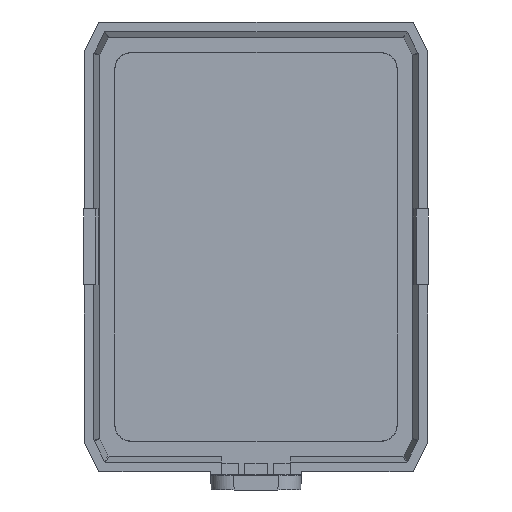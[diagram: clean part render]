
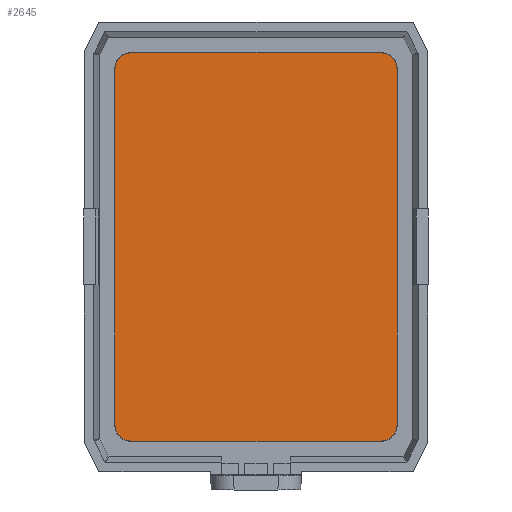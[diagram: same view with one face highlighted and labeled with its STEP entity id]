
A CAD part, front view. The second image highlights one B-rep face of the part: STEP entity #2645.
In plain terms, the highlighted planar face has unit normal (0, -1, 0).
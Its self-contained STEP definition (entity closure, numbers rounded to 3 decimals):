
#1009=DIRECTION('',(-1.,0.,0.));
#1010=VECTOR('',#1009,32.924);
#1011=CARTESIAN_POINT('',(-264.178,204.865,
-223.854));
#1012=LINE('',#1011,#1010);
#1017=DIRECTION('',(0.,0.,1.));
#1018=VECTOR('',#1017,46.924);
#1019=CARTESIAN_POINT('',(-299.202,204.865,
-221.754));
#1020=LINE('',#1019,#1018);
#1021=CARTESIAN_POINT('',(-297.102,204.865,
-221.754));
#1022=DIRECTION('',(0.,-1.,0.));
#1023=DIRECTION('',(-1.,0.,0.));
#1024=AXIS2_PLACEMENT_3D('',#1021,#1022,#1023);
#1034=CARTESIAN_POINT('',(-297.102,204.865,
-174.831));
#1035=DIRECTION('',(0.,-1.,0.));
#1036=DIRECTION('',(0.,0.,1.));
#1037=AXIS2_PLACEMENT_3D('',#1034,#1035,#1036);
#1043=DIRECTION('',(1.,0.,0.));
#1044=VECTOR('',#1043,32.924);
#1045=CARTESIAN_POINT('',(-297.102,204.865,
-172.731));
#1046=LINE('',#1045,#1044);
#1051=CARTESIAN_POINT('',(-264.178,204.865,
-174.831));
#1052=DIRECTION('',(0.,-1.,0.));
#1053=DIRECTION('',(1.,0.,0.));
#1054=AXIS2_PLACEMENT_3D('',#1051,#1052,#1053);
#1060=DIRECTION('',(0.,0.,-1.));
#1061=VECTOR('',#1060,46.924);
#1062=CARTESIAN_POINT('',(-262.078,204.865,
-174.831));
#1063=LINE('',#1062,#1061);
#1068=CARTESIAN_POINT('',(-264.178,204.865,
-221.754));
#1069=DIRECTION('',(0.,-1.,0.));
#1070=DIRECTION('',(0.,0.,-1.));
#1071=AXIS2_PLACEMENT_3D('',#1068,#1069,#1070);
#1338=CARTESIAN_POINT('',(-299.202,204.865,
-221.754));
#1339=CARTESIAN_POINT('',(-299.202,204.865,
-174.831));
#1340=VERTEX_POINT('',#1338);
#1341=VERTEX_POINT('',#1339);
#1342=CARTESIAN_POINT('',(-297.102,204.865,
-223.854));
#1343=VERTEX_POINT('',#1342);
#1344=CARTESIAN_POINT('',(-264.178,204.865,
-223.854));
#1345=VERTEX_POINT('',#1344);
#1346=CARTESIAN_POINT('',(-262.078,204.865,
-221.754));
#1347=VERTEX_POINT('',#1346);
#1348=CARTESIAN_POINT('',(-262.078,204.865,
-174.831));
#1349=VERTEX_POINT('',#1348);
#1350=CARTESIAN_POINT('',(-264.178,204.865,
-172.731));
#1351=VERTEX_POINT('',#1350);
#1352=CARTESIAN_POINT('',(-297.102,204.865,
-172.731));
#1353=VERTEX_POINT('',#1352);
#2623=CARTESIAN_POINT('',(-280.64,204.865,
-198.292));
#2624=DIRECTION('',(0.,-1.,0.));
#2625=DIRECTION('',(0.,0.,-1.));
#2626=AXIS2_PLACEMENT_3D('',#2623,#2624,#2625);
#2627=PLANE('',#2626);
#2629=ORIENTED_EDGE('',*,*,#2628,.T.);
#2631=ORIENTED_EDGE('',*,*,#2630,.F.);
#2633=ORIENTED_EDGE('',*,*,#2632,.T.);
#2635=ORIENTED_EDGE('',*,*,#2634,.F.);
#2637=ORIENTED_EDGE('',*,*,#2636,.T.);
#2639=ORIENTED_EDGE('',*,*,#2638,.F.);
#2640=ORIENTED_EDGE('',*,*,#2613,.T.);
#2642=ORIENTED_EDGE('',*,*,#2641,.F.);
#2643=EDGE_LOOP('',(#2629,#2631,#2633,#2635,#2637,#2639,#2640,#2642));
#2644=FACE_OUTER_BOUND('',#2643,.F.);
#2645=ADVANCED_FACE('',(#2644),#2627,.T.);
#1025=CIRCLE('',#1024,2.1);
#1038=CIRCLE('',#1037,2.1);
#1055=CIRCLE('',#1054,2.1);
#1072=CIRCLE('',#1071,2.1);
#2613=EDGE_CURVE('',#1345,#1343,#1012,.T.);
#2628=EDGE_CURVE('',#1340,#1341,#1020,.T.);
#2630=EDGE_CURVE('',#1353,#1341,#1038,.T.);
#2632=EDGE_CURVE('',#1353,#1351,#1046,.T.);
#2634=EDGE_CURVE('',#1349,#1351,#1055,.T.);
#2636=EDGE_CURVE('',#1349,#1347,#1063,.T.);
#2638=EDGE_CURVE('',#1345,#1347,#1072,.T.);
#2641=EDGE_CURVE('',#1340,#1343,#1025,.T.);
